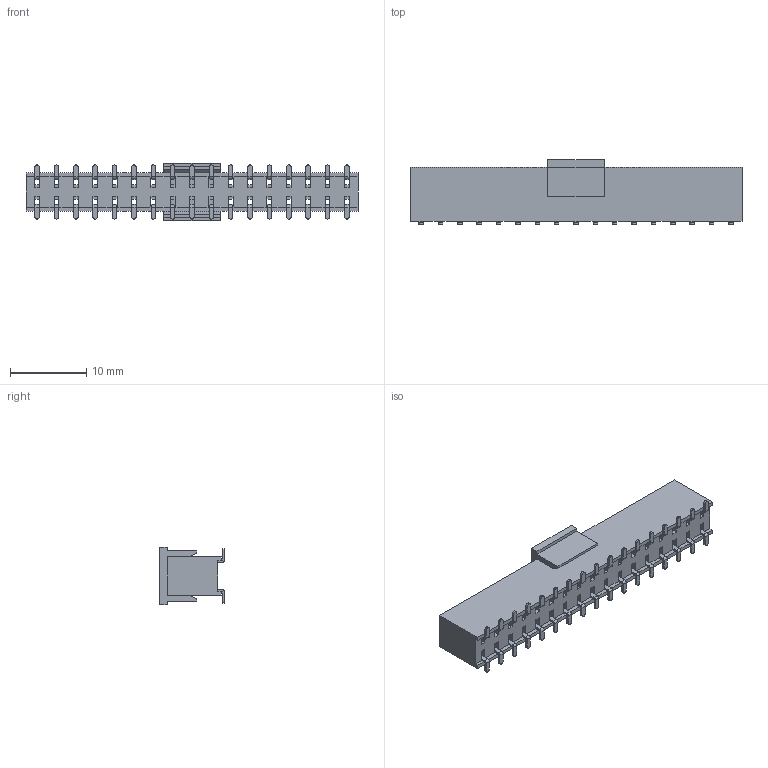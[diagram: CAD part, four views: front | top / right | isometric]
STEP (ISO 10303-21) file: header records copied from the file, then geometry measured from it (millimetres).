
FILE_DESCRIPTION (( 'STEP AP203' ), '1' );
FILE_NAME ('PM254-2-17-S-7.1-XX-R(L7.5) (2.54双排 排母 贴片 编带+盖 塑高7.1-HCTL).STEP', '2025-08-09T08:06:47', ( '' ), ( '' ), 'SwSTEP 2.0', 'SolidWorks 2025', '' );
FILE_SCHEMA (( 'CONFIG_CONTROL_DESIGN' ));
Length unit declared in the file: millimetre
Products named in the file (1): PM254-2-17-S-7.1-XX-R(L7.5) (2.54双排 排母 贴片 编带+盖 塑高7.1-HCTL)
Bounding box: 43.58 x 8.5 x 7.5 mm (x, y, z)
Volume: 1451.6 mm3; surface area: 2160.3 mm2
Topology: 2 solids, 2 shells, 740 faces, 2106 edges, 1336 vertices
Faces by surface type: plane 638, cylinder 102
Entity records: 23693 total; most frequent: ORIENTED_EDGE 4212, CARTESIAN_POINT 4183, DIRECTION 3792, EDGE_CURVE 2106, LINE 1902, VECTOR 1902, VERTEX_POINT 1336, AXIS2_PLACEMENT_3D 945
